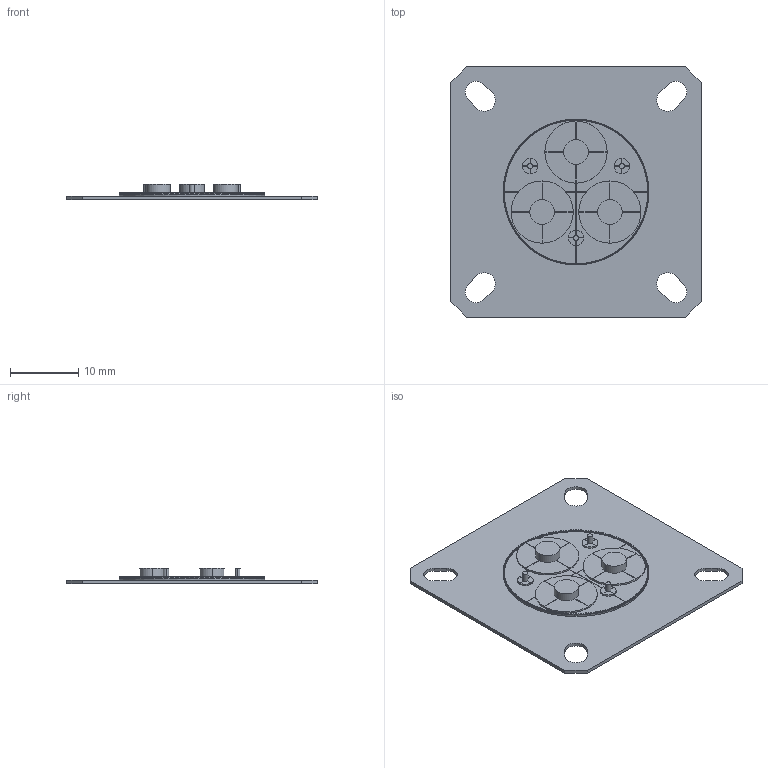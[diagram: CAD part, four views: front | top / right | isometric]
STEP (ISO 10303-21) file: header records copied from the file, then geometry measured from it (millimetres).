
FILE_DESCRIPTION((''),'2;1');
FILE_NAME('SMILEY_1_ASM','2021-03-01T15:52:51',('ccole'),(''),'CREO PARAMETRIC BY PTC INC, 2019292','CREO PARAMETRIC BY PTC INC, 2019292','');
FILE_SCHEMA(('CONFIG_CONTROL_DESIGN'));
Length unit declared in the file: inch
Products named in the file (4): INSERT_SIM_DUMMY-19; CONTACT_SIM_DUMMY-08; CONTACT_SIM_DUMMY-22D; SMILEY_1_ASM
Assembly tree (7 placements, depth 2):
  SMILEY_1_ASM
    INSERT_SIM_DUMMY-19
    CONTACT_SIM_DUMMY-08  x3
    CONTACT_SIM_DUMMY-22D  x3
Bounding box: 36.8 x 36.8 x 2.29 mm (x, y, z)
Volume: 841 mm3; surface area: 3219.9 mm2
Topology: 7 solids, 7 shells, 1101 faces, 3206 edges, 2120 vertices
Faces by surface type: cylinder 578, plane 523
Entity records: 36863 total; most frequent: CARTESIAN_POINT 14007, ORIENTED_EDGE 5900, DIRECTION 3018, EDGE_CURVE 2950, B_SPLINE_CURVE_WITH_KNOTS 2006, VERTEX_POINT 1960, AXIS2_PLACEMENT_3D 1066, EDGE_LOOP 1006
